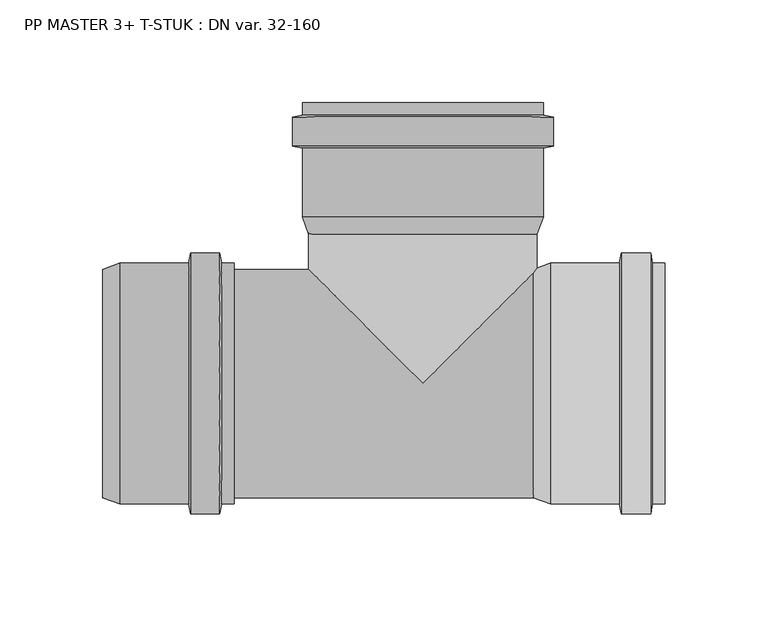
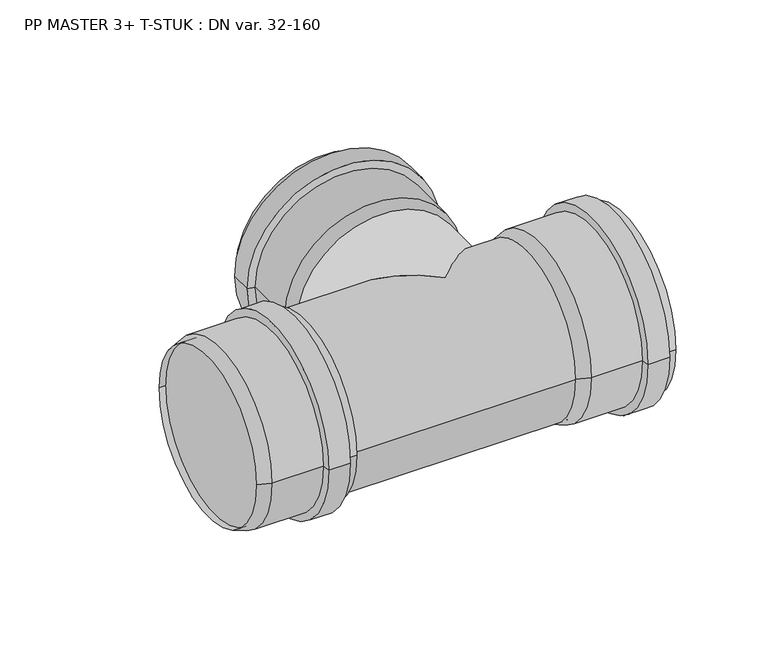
"""IFC4 building model written with IfcOpenShell, lengths in millimetres: pipe fitting geometry, PP MASTER 3+ T-STUK : DN var. 32-160."""

from ifc_helpers import new_model, si_unit, frame, origin, place, context, project, spatial, polyline, circle_curve, ellipse_curve, source, transform, mapped, element, save
from ifc_brep_helpers import plane_surface, cylinder_surface, revolved_surface, advanced_brep


def pp_master_3_t_stuk_dn_var_32_160_00d9866a(model_context):
    return source(origin(), model_context, "Body", "AdvancedBrep", [
        advanced_brep(
        [(53.8787839, 55.65, 0.0), (53.8787839, -55.65, 0.0), (117.8787839, -55.65, 0.0), (117.8787839, 55.65, 0.0), (62.1212161, 58.65, 0.0), (62.1212161, -58.65, 0.0), (95.7787839, 58.65, 0.0), (95.7787839, -58.65, 0.0), (96.6339697, 63.5, 0.0), (96.6339697, -63.5, 0.0), (110.923598, 63.5, 0.0), (110.923598, -63.5, 0.0), (111.7787839, 58.65, 0.0), (111.7787839, -58.65, 0.0), (117.8787839, 58.65, 0.0), (117.8787839, -58.65, 0.0)],
        [
            (0, 1, circle_curve(frame((53.8787839, 0.0, 0.0), z_axis=(-1.0, 0.0, 0.0), x_axis=(0.0, -1.0000000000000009, 0.0)), 55.65)),
            (1, 2),
            (2, 3, circle_curve(frame((117.8787839, 0.0, 0.0), z_axis=(1.0, 0.0, 0.0), x_axis=(0.0, -1.0000000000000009, 0.0)), 55.65)),
            (3, 0),
            (1, 0, circle_curve(frame((53.8787839, 0.0, 0.0), z_axis=(-1.0, 0.0, 0.0), x_axis=(0.0, -1.0000000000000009, 0.0)), 55.65)),
            (3, 2, circle_curve(frame((117.8787839, 0.0, 0.0), z_axis=(1.0, 0.0, 0.0), x_axis=(0.0, -1.0000000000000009, 0.0)), 55.65)),
            (4, 5, circle_curve(frame((62.1212161, 0.0, 0.0), z_axis=(-1.0, 0.0, 0.0), x_axis=(0.0, -1.0000000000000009, 0.0)), 58.65)),
            (5, 1),
            (0, 4),
            (5, 4, circle_curve(frame((62.1212161, 0.0, 0.0), z_axis=(-1.0, 0.0, 0.0), x_axis=(0.0, -1.0000000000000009, 0.0)), 58.65)),
            (6, 7, circle_curve(frame((95.7787839, 0.0, 0.0), z_axis=(-1.0, 0.0, 0.0), x_axis=(0.0, -1.0000000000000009, 0.0)), 58.65)),
            (7, 5),
            (4, 6),
            (7, 6, circle_curve(frame((95.7787839, 0.0, 0.0), z_axis=(-1.0, 0.0, 0.0), x_axis=(0.0, -1.0000000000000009, 0.0)), 58.65)),
            (8, 9, circle_curve(frame((96.6339697, 0.0, 0.0), z_axis=(-1.0, 0.0, 0.0), x_axis=(0.0, -1.0000000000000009, 0.0)), 63.5)),
            (9, 7),
            (6, 8),
            (9, 8, circle_curve(frame((96.6339697, 0.0, 0.0), z_axis=(-1.0, 0.0, 0.0), x_axis=(0.0, -1.0000000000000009, 0.0)), 63.5)),
            (10, 11, circle_curve(frame((110.923598, 0.0, 0.0), z_axis=(-1.0, 0.0, 0.0), x_axis=(0.0, -1.0000000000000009, 0.0)), 63.5)),
            (11, 9),
            (8, 10),
            (11, 10, circle_curve(frame((110.923598, 0.0, 0.0), z_axis=(-1.0, 0.0, 0.0), x_axis=(0.0, -1.0000000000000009, 0.0)), 63.5)),
            (12, 13, circle_curve(frame((111.7787839, 0.0, 0.0), z_axis=(-1.0, 0.0, 0.0), x_axis=(0.0, -1.0000000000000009, 0.0)), 58.65)),
            (13, 11),
            (10, 12),
            (13, 12, circle_curve(frame((111.7787839, 0.0, 0.0), z_axis=(-1.0, 0.0, 0.0), x_axis=(0.0, -1.0000000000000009, 0.0)), 58.65)),
            (14, 15, circle_curve(frame((117.8787839, 0.0, 0.0), z_axis=(-1.0, 0.0, 0.0), x_axis=(0.0, -1.0000000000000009, 0.0)), 58.65)),
            (15, 13),
            (12, 14),
            (15, 14, circle_curve(frame((117.8787839, 0.0, 0.0), z_axis=(-1.0, 0.0, 0.0), x_axis=(0.0, -1.0000000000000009, 0.0)), 58.65)),
            (2, 15),
            (14, 3),
        ],
        [
            revolved_surface(polyline([(117.87878389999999, -55.65000000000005, 0.0), (53.878783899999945, -55.65000000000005, 0.0)]), (127.8787839, 0.0, 0.0), (1.0000000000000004, 0.0, 0.0)),
            revolved_surface(polyline([(53.8787839, -55.65, 0.0), (62.1212161, -58.65, 0.0)]), (127.8787839, 0.0, 0.0), (1.0000000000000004, 0.0, 0.0)),
            cylinder_surface(frame((127.8787839, 0.0, 0.0), z_axis=(1.0000000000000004, 0.0, 0.0), x_axis=(0.0, -1.0000000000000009, 0.0)), 58.65),
            revolved_surface(polyline([(95.7787839, -58.65, 0.0), (96.6339697, -63.5, 0.0)]), (127.8787839, 0.0, 0.0), (1.0000000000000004, 0.0, 0.0)),
            cylinder_surface(frame((127.8787839, 0.0, 0.0), z_axis=(1.0000000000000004, 0.0, 0.0), x_axis=(0.0, -1.0000000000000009, 0.0)), 63.5),
            revolved_surface(polyline([(110.923598, -63.5, 0.0), (111.7787839, -58.65, 0.0)]), (127.8787839, 0.0, 0.0), (1.0000000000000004, 0.0, 0.0)),
            plane_surface(frame((117.8787839, 0.0, 0.0), z_axis=(1.0, 0.0, 0.0), x_axis=(0.0, -1.0, 0.0))),
        ],
        [
            (0, [[1, 2, 3, 4]]),
            (0, [[5, -4, 6, -2]]),
            (1, [[7, 8, -1, 9]]),
            (1, [[10, -9, -5, -8]]),
            (2, [[11, 12, -7, 13]]),
            (2, [[14, -13, -10, -12]]),
            (3, [[15, 16, -11, 17]]),
            (3, [[18, -17, -14, -16]]),
            (4, [[19, 20, -15, 21]]),
            (4, [[22, -21, -18, -20]]),
            (5, [[23, 24, -19, 25]]),
            (5, [[26, -25, -22, -24]]),
            (2, [[27, 28, -23, 29]]),
            (2, [[30, -29, -26, -28]]),
            (6, [[-3, 31, -27, 32]]),
            (6, [[-6, -32, -30, -31]]),
        ],
    ),
        advanced_brep(
        [(-55.65, 72.8787839, 0.0), (55.65, 72.8787839, 0.0), (55.65, 136.8787839, 0.0), (-55.65, 136.8787839, 0.0), (-58.65, 81.1212161, 0.0), (58.65, 81.1212161, 0.0), (-58.65, 114.7787839, 0.0), (58.65, 114.7787839, 0.0), (-63.5, 115.6339697, 0.0), (63.5, 115.6339697, 0.0), (-63.5, 129.923598, 0.0), (63.5, 129.923598, 0.0), (-58.65, 130.7787839, 0.0), (58.65, 130.7787839, 0.0), (-58.65, 136.8787839, 0.0), (58.65, 136.8787839, 0.0)],
        [
            (0, 1, circle_curve(frame((0.0, 72.8787839, 0.0), z_axis=(0.0, -1.0, 0.0), x_axis=(1.0000000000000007, 0.0, 0.0)), 55.65)),
            (1, 2),
            (2, 3, circle_curve(frame((0.0, 136.8787839, 0.0), z_axis=(0.0, 1.0, 0.0), x_axis=(1.0000000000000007, 0.0, 0.0)), 55.65)),
            (3, 0),
            (1, 0, circle_curve(frame((0.0, 72.8787839, 0.0), z_axis=(0.0, -1.0, 0.0), x_axis=(1.0000000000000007, 0.0, 0.0)), 55.65)),
            (3, 2, circle_curve(frame((0.0, 136.8787839, 0.0), z_axis=(0.0, 1.0, 0.0), x_axis=(1.0000000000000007, 0.0, 0.0)), 55.65)),
            (4, 5, circle_curve(frame((0.0, 81.1212161, 0.0), z_axis=(0.0, -1.0, 0.0), x_axis=(1.0000000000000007, 0.0, 0.0)), 58.65)),
            (5, 1),
            (0, 4),
            (5, 4, circle_curve(frame((0.0, 81.1212161, 0.0), z_axis=(0.0, -1.0, 0.0), x_axis=(1.0000000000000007, 0.0, 0.0)), 58.65)),
            (6, 7, circle_curve(frame((0.0, 114.7787839, 0.0), z_axis=(0.0, -1.0, 0.0), x_axis=(1.0000000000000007, 0.0, 0.0)), 58.65)),
            (7, 5),
            (4, 6),
            (7, 6, circle_curve(frame((0.0, 114.7787839, 0.0), z_axis=(0.0, -1.0, 0.0), x_axis=(1.0000000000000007, 0.0, 0.0)), 58.65)),
            (8, 9, circle_curve(frame((0.0, 115.6339697, 0.0), z_axis=(0.0, -1.0, 0.0), x_axis=(1.0000000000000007, 0.0, 0.0)), 63.5)),
            (9, 7),
            (6, 8),
            (9, 8, circle_curve(frame((0.0, 115.6339697, 0.0), z_axis=(0.0, -1.0, 0.0), x_axis=(1.0000000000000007, 0.0, 0.0)), 63.5)),
            (10, 11, circle_curve(frame((0.0, 129.923598, 0.0), z_axis=(0.0, -1.0, 0.0), x_axis=(1.0000000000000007, 0.0, 0.0)), 63.5)),
            (11, 9),
            (8, 10),
            (11, 10, circle_curve(frame((0.0, 129.923598, 0.0), z_axis=(0.0, -1.0, 0.0), x_axis=(1.0000000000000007, 0.0, 0.0)), 63.5)),
            (12, 13, circle_curve(frame((0.0, 130.7787839, 0.0), z_axis=(0.0, -1.0, 0.0), x_axis=(1.0000000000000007, 0.0, 0.0)), 58.65)),
            (13, 11),
            (10, 12),
            (13, 12, circle_curve(frame((0.0, 130.7787839, 0.0), z_axis=(0.0, -1.0, 0.0), x_axis=(1.0000000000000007, 0.0, 0.0)), 58.65)),
            (14, 15, circle_curve(frame((0.0, 136.8787839, 0.0), z_axis=(0.0, -1.0, 0.0), x_axis=(1.0000000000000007, 0.0, 0.0)), 58.65)),
            (15, 13),
            (12, 14),
            (15, 14, circle_curve(frame((0.0, 136.8787839, 0.0), z_axis=(0.0, -1.0, 0.0), x_axis=(1.0000000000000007, 0.0, 0.0)), 58.65)),
            (2, 15),
            (14, 3),
        ],
        [
            revolved_surface(polyline([(55.650000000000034, 136.87878389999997, 0.0), (55.650000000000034, 72.87878389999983, 0.0)]), (0.0, 146.8787839, 0.0), (0.0, 1.000000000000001, 0.0)),
            revolved_surface(polyline([(55.65, 72.8787839, 0.0), (58.65, 81.1212161, 0.0)]), (0.0, 146.8787839, 0.0), (0.0, 1.000000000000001, 0.0)),
            cylinder_surface(frame((0.0, 146.8787839, 0.0), z_axis=(0.0, 1.000000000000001, 0.0), x_axis=(1.0000000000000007, 0.0, 0.0)), 58.65),
            revolved_surface(polyline([(58.65, 114.7787839, 0.0), (63.5, 115.6339697, 0.0)]), (0.0, 146.8787839, 0.0), (0.0, 1.000000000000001, 0.0)),
            cylinder_surface(frame((0.0, 146.8787839, 0.0), z_axis=(0.0, 1.000000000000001, 0.0), x_axis=(1.0000000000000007, 0.0, 0.0)), 63.5),
            revolved_surface(polyline([(63.5, 129.923598, 0.0), (58.65, 130.7787839, 0.0)]), (0.0, 146.8787839, 0.0), (0.0, 1.000000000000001, 0.0)),
            plane_surface(frame((0.0, 136.8787839, 0.0), z_axis=(0.0, 1.0, 0.0), x_axis=(1.0, 0.0, 0.0))),
        ],
        [
            (0, [[1, 2, 3, 4]]),
            (0, [[5, -4, 6, -2]]),
            (1, [[7, 8, -1, 9]]),
            (1, [[10, -9, -5, -8]]),
            (2, [[11, 12, -7, 13]]),
            (2, [[14, -13, -10, -12]]),
            (3, [[15, 16, -11, 17]]),
            (3, [[18, -17, -14, -16]]),
            (4, [[19, 20, -15, 21]]),
            (4, [[22, -21, -18, -20]]),
            (5, [[23, 24, -19, 25]]),
            (5, [[26, -25, -22, -24]]),
            (2, [[27, 28, -23, 29]]),
            (2, [[30, -29, -26, -28]]),
            (6, [[-3, 31, -27, 32]]),
            (6, [[-6, -32, -30, -31]]),
        ],
    ),
        advanced_brep(
        [(-92.0212161, -55.65, 0.0), (-92.0212161, 55.65, 0.0), (-156.0212161, 55.65, 0.0), (-156.0212161, -55.65, 0.0), (-147.7787839, 58.65, 0.0), (-147.7787839, -58.65, 0.0), (-114.1212161, 58.65, 0.0), (-114.1212161, -58.65, 0.0), (-113.2660303, 63.5, 0.0), (-113.2660303, -63.5, 0.0), (-98.976402, 63.5, 0.0), (-98.976402, -63.5, 0.0), (-98.1212161, 58.65, 0.0), (-98.1212161, -58.65, 0.0), (-92.0212161, 58.65, 0.0), (-92.0212161, -58.65, 0.0)],
        [
            (0, 1, circle_curve(frame((-92.0212161, 0.0, 0.0), z_axis=(1.0, 0.0, 0.0), x_axis=(0.0, 1.0, 0.0)), 55.65)),
            (1, 2),
            (2, 3, circle_curve(frame((-156.0212161, 0.0, 0.0), z_axis=(-1.0, 0.0, 0.0), x_axis=(0.0, 1.0, 0.0)), 55.65)),
            (3, 0),
            (1, 0, circle_curve(frame((-92.0212161, 0.0, 0.0), z_axis=(1.0, 0.0, 0.0), x_axis=(0.0, 1.0, 0.0)), 55.65)),
            (3, 2, circle_curve(frame((-156.0212161, 0.0, 0.0), z_axis=(-1.0, 0.0, 0.0), x_axis=(0.0, 1.0, 0.0)), 55.65)),
            (2, 4),
            (4, 5, circle_curve(frame((-147.7787839, 0.0, 0.0), z_axis=(-1.0, 0.0, 0.0), x_axis=(0.0, 1.0, 0.0)), 58.65)),
            (5, 3),
            (5, 4, circle_curve(frame((-147.7787839, 0.0, 0.0), z_axis=(-1.0, 0.0, 0.0), x_axis=(0.0, 1.0, 0.0)), 58.65)),
            (4, 6),
            (6, 7, circle_curve(frame((-114.1212161, 0.0, 0.0), z_axis=(-1.0, 0.0, 0.0), x_axis=(0.0, 1.0, 0.0)), 58.65)),
            (7, 5),
            (7, 6, circle_curve(frame((-114.1212161, 0.0, 0.0), z_axis=(-1.0, 0.0, 0.0), x_axis=(0.0, 1.0, 0.0)), 58.65)),
            (6, 8),
            (8, 9, circle_curve(frame((-113.2660303, 0.0, 0.0), z_axis=(-1.0, 0.0, 0.0), x_axis=(0.0, 1.0, 0.0)), 63.5)),
            (9, 7),
            (9, 8, circle_curve(frame((-113.2660303, 0.0, 0.0), z_axis=(-1.0, 0.0, 0.0), x_axis=(0.0, 1.0, 0.0)), 63.5)),
            (8, 10),
            (10, 11, circle_curve(frame((-98.976402, 0.0, 0.0), z_axis=(-1.0, 0.0, 0.0), x_axis=(0.0, 1.0, 0.0)), 63.5)),
            (11, 9),
            (11, 10, circle_curve(frame((-98.976402, 0.0, 0.0), z_axis=(-1.0, 0.0, 0.0), x_axis=(0.0, 1.0, 0.0)), 63.5)),
            (10, 12),
            (12, 13, circle_curve(frame((-98.1212161, 0.0, 0.0), z_axis=(-1.0, 0.0, 0.0), x_axis=(0.0, 1.0, 0.0)), 58.65)),
            (13, 11),
            (13, 12, circle_curve(frame((-98.1212161, 0.0, 0.0), z_axis=(-1.0, 0.0, 0.0), x_axis=(0.0, 1.0, 0.0)), 58.65)),
            (12, 14),
            (14, 15, circle_curve(frame((-92.0212161, 0.0, 0.0), z_axis=(-1.0, 0.0, 0.0), x_axis=(0.0, 1.0, 0.0)), 58.65)),
            (15, 13),
            (15, 14, circle_curve(frame((-92.0212161, 0.0, 0.0), z_axis=(-1.0, 0.0, 0.0), x_axis=(0.0, 1.0, 0.0)), 58.65)),
            (14, 1),
            (0, 15),
        ],
        [
            revolved_surface(polyline([(-156.0212161, 55.65, 0.0), (-92.0212161, 55.65, 0.0)]), (-82.0212161, 0.0, 0.0), (-1.0, 0.0, 0.0)),
            revolved_surface(polyline([(-147.7787839, 58.65, 0.0), (-156.0212161, 55.65, 0.0)]), (-82.0212161, 0.0, 0.0), (-1.0, 0.0, 0.0)),
            cylinder_surface(frame((-82.0212161, 0.0, 0.0), z_axis=(-1.0, 0.0, 0.0), x_axis=(0.0, 1.0, 0.0)), 58.65),
            revolved_surface(polyline([(-113.2660303, 63.5, 0.0), (-114.1212161, 58.65, 0.0)]), (-82.0212161, 0.0, 0.0), (-1.0, 0.0, 0.0)),
            cylinder_surface(frame((-82.0212161, 0.0, 0.0), z_axis=(-1.0, 0.0, 0.0), x_axis=(0.0, 1.0, 0.0)), 63.5),
            revolved_surface(polyline([(-98.1212161, 58.65, 0.0), (-98.976402, 63.5, 0.0)]), (-82.0212161, 0.0, 0.0), (-1.0, 0.0, 0.0)),
            plane_surface(frame((-92.0212161, 0.0, 0.0), z_axis=(1.0, 0.0, 0.0), x_axis=(0.0, 1.0, 0.0))),
        ],
        [
            (0, [[1, 2, 3, 4]]),
            (0, [[5, -4, 6, -2]]),
            (1, [[-3, 7, 8, 9]]),
            (1, [[-6, -9, 10, -7]]),
            (2, [[-8, 11, 12, 13]]),
            (2, [[-10, -13, 14, -11]]),
            (3, [[-12, 15, 16, 17]]),
            (3, [[-14, -17, 18, -15]]),
            (4, [[-16, 19, 20, 21]]),
            (4, [[-18, -21, 22, -19]]),
            (5, [[-20, 23, 24, 25]]),
            (5, [[-22, -25, 26, -23]]),
            (2, [[-24, 27, 28, 29]]),
            (2, [[-26, -29, 30, -27]]),
            (6, [[-28, 31, -1, 32]]),
            (6, [[-30, -32, -5, -31]]),
        ],
    ),
        advanced_brep(
        [(-151.9, -55.65, 0.0), (-151.9, 55.65, 0.0), (58.0, -55.65, 0.0), (58.0, 0.0, 55.65), (58.0, 55.65, 0.0), (55.65, 55.65, 0.0), (0.0, 0.0, 55.65), (-55.65, 55.65, 0.0), (0.0, 0.0, -55.65), (58.0, 0.0, -55.65), (55.65, 77.0, 0.0), (-55.65, 77.0, 0.0)],
        [
            (0, 1, circle_curve(frame((-151.9, 0.0, 0.0), z_axis=(-1.0, 0.0, 0.0), x_axis=(0.0, 1.0, 0.0)), 55.65)),
            (1, 0, circle_curve(frame((-151.9, 0.0, 0.0), z_axis=(-1.0, 0.0, 0.0), x_axis=(0.0, 1.0, 0.0)), 55.65)),
            (0, 2),
            (2, 3, circle_curve(frame((58.0, 0.0, 0.0), z_axis=(-1.0, 0.0, 0.0), x_axis=(0.0, 1.0, 0.0)), 55.65)),
            (3, 4, circle_curve(frame((58.0, 0.0, 0.0), z_axis=(-1.0, 0.0, 0.0), x_axis=(0.0, 1.0, 0.0)), 55.65)),
            (4, 5),
            (5, 6, ellipse_curve(frame((0.0, 0.0, 0.0), z_axis=(0.7071067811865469, -0.707106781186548, 0.0), x_axis=(-0.7071067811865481, -0.7071067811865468, 0.0)), 78.7009847, 55.65)),
            (6, 7, ellipse_curve(frame((0.0, 0.0, 0.0), z_axis=(-0.707106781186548, -0.7071067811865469, 0.0), x_axis=(-0.7071067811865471, 0.7071067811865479, 0.0)), 78.7009847, 55.65)),
            (7, 1),
            (7, 8, ellipse_curve(frame((0.0, 0.0, 0.0), z_axis=(-0.707106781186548, -0.7071067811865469, 0.0), x_axis=(-0.7071067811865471, 0.7071067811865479, 0.0)), 78.7009847, 55.65)),
            (8, 5, ellipse_curve(frame((0.0, 0.0, 0.0), z_axis=(0.7071067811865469, -0.707106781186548, 0.0), x_axis=(-0.7071067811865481, -0.7071067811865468, 0.0)), 78.7009847, 55.65)),
            (4, 9, circle_curve(frame((58.0, 0.0, 0.0), z_axis=(-1.0, 0.0, 0.0), x_axis=(0.0, 1.0, 0.0)), 55.65)),
            (9, 2, circle_curve(frame((58.0, 0.0, 0.0), z_axis=(-1.0, 0.0, 0.0), x_axis=(0.0, 1.0, 0.0)), 55.65)),
            (10, 11, circle_curve(frame((0.0, 77.0, 0.0), z_axis=(0.0, 1.0, 0.0), x_axis=(-1.0, 0.0, 0.0)), 55.65)),
            (11, 10, circle_curve(frame((0.0, 77.0, 0.0), z_axis=(0.0, 1.0, 0.0), x_axis=(-1.0, 0.0, 0.0)), 55.65)),
            (11, 7),
            (5, 10),
        ],
        [
            plane_surface(frame((-151.9, 0.0, 0.0), z_axis=(-1.0, 0.0, 0.0), x_axis=(0.0, 0.0, 1.0))),
            cylinder_surface(frame((-151.9, 0.0, 0.0), z_axis=(-1.0, 0.0, 0.0), x_axis=(0.0, 1.0, 0.0)), 55.65),
            plane_surface(frame((0.0, 77.0, 0.0), z_axis=(0.0, 1.0, 0.0), x_axis=(0.0, 0.0, 1.0))),
            cylinder_surface(frame((0.0, 0.0, 0.0), z_axis=(0.0, -1.0, 0.0), x_axis=(-1.0, 0.0, 0.0)), 55.65),
            plane_surface(frame((58.0, 0.0, -55.65), z_axis=(1.0, 0.0, 0.0), x_axis=(0.0, -1.0, 0.0))),
        ],
        [
            (0, [[1, 2]]),
            (1, [[-1, 3, 4, 5, 6, 7, 8, 9]]),
            (1, [[-2, -9, 10, 11, -6, 12, 13, -3]]),
            (2, [[14, 15]]),
            (3, [[-15, 16, -8, -7, 17]]),
            (3, [[-14, -17, -11, -10, -16]]),
            (4, [[-4, -13, -12, -5]]),
        ],
    ),
    ])


if __name__ == "__main__":
    model = new_model("IFC4")
    model_context = context("Model", 3, world=origin())
    ifc_project = project(units=[si_unit("LENGTHUNIT", "METRE", prefix="MILLI")], contexts=[model_context])
    site = spatial("IfcSite", under=ifc_project)
    building = spatial("IfcBuilding", under=site)
    placement = place(None, origin())
    pp_master_3_t_stuk_dn_var_32_160_shape = pp_master_3_t_stuk_dn_var_32_160_00d9866a(model_context)
    element("IfcPipeFitting", 1, ObjectType="PP MASTER 3+ T-STUK : DN var. 32-160", at=placement, inside=building, context=model_context, shape_type="MappedRepresentation", body=[
        mapped(pp_master_3_t_stuk_dn_var_32_160_shape, transform((0.0, 0.0, 0.0), x_axis=(1.0, 0.0, 0.0), y_axis=(0.0, 1.0, 0.0), z_axis=(0.0, 0.0, 1.0))),
    ])
    save(model, "model.ifc")
